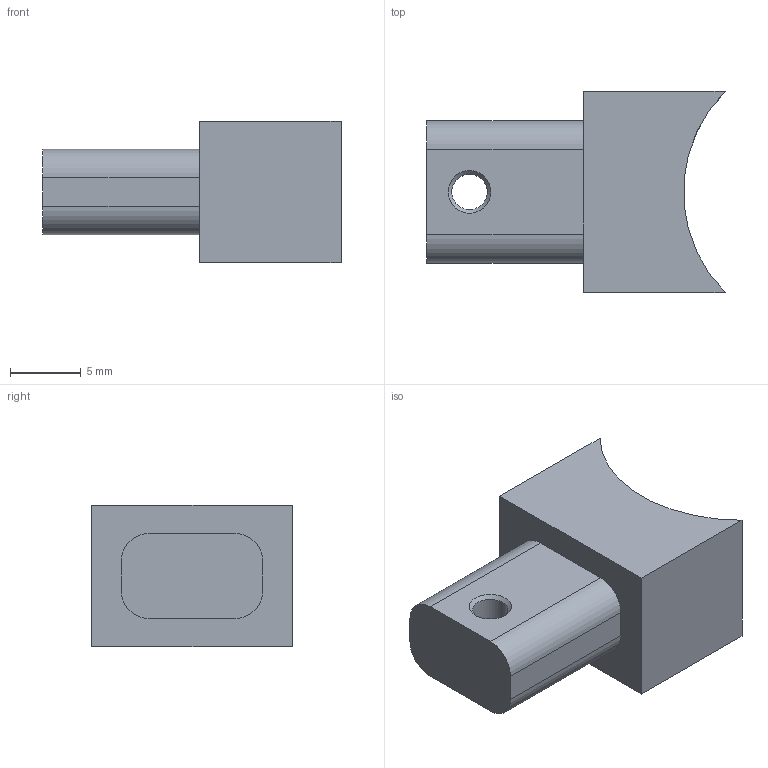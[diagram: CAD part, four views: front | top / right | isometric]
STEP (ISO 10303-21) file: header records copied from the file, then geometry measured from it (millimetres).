
FILE_DESCRIPTION(/* description */ (''),/* implementation_level */ '2;1');
FILE_NAME(/* name */ '20D砂轮阴极.stp',/* time_stamp */ '2026-09-16T10:41:21+08:00',/* author */ (''),/* organization */ (''),/* preprocessor_version */ 'ST-DEVELOPER v20',/* originating_system */ 'SIEMENS PLM Software NX2312.1700',/* authorisation */ '');
FILE_SCHEMA (('AUTOMOTIVE_DESIGN { 1 0 10303 214 3 1 1 1 }'));
Length unit declared in the file: millimetre
Products named in the file (1): 砂轮阴极大
Bounding box: 21 x 14.14 x 10 mm (x, y, z)
Volume: 1721.1 mm3; surface area: 1073.7 mm2
Topology: 1 solids, 1 shells, 18 faces, 45 edges, 30 vertices
Faces by surface type: plane 10, cylinder 6, cone 2
Full cylindrical faces by diameter (mm): 2.5 x1
Entity records: 538 total; most frequent: DIRECTION 92, CARTESIAN_POINT 87, ORIENTED_EDGE 80, EDGE_CURVE 40, AXIS2_PLACEMENT_3D 33, VERTEX_POINT 28, LINE 26, VECTOR 26
